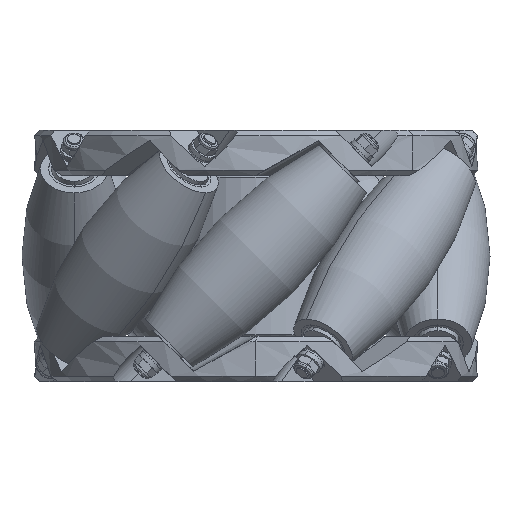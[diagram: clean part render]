
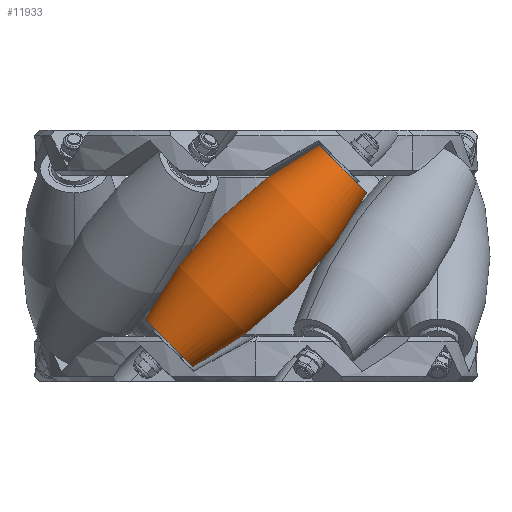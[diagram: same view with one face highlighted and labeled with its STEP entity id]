
A CAD part, left-side view. The second image highlights one B-rep face of the part: STEP entity #11933.
In plain terms, the highlighted toroidal (fillet/blend) face has major radius 137.5 mm and minor radius 157 mm.
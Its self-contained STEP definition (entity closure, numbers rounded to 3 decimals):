
#224 = DIRECTION ( 'NONE',  ( 0.707, 0., 0.707 ) ) ;
#780 = TOROIDAL_SURFACE ( 'NONE', #13351, -137.5, 157. ) ;
#991 = CARTESIAN_POINT ( 'NONE',  ( 41.443, 68.5, -23.61 ) ) ;
#1333 = ORIENTED_EDGE ( 'NONE', *, *, #8897, .F. ) ;
#3078 = DIRECTION ( 'NONE',  ( -0.707, 0., 0.707 ) ) ;
#3083 = DIRECTION ( 'NONE',  ( -0.707, 0., 0.707 ) ) ;
#3659 = EDGE_CURVE ( 'NONE', #7152, #8139, #18464, .T. ) ;
#3838 = AXIS2_PLACEMENT_3D ( 'NONE', #20030, #10143, #224 ) ;
#5120 = CARTESIAN_POINT ( 'NONE',  ( 23.61, 68.5, -41.443 ) ) ;
#5210 = ORIENTED_EDGE ( 'NONE', *, *, #3659, .T. ) ;
#5842 = AXIS2_PLACEMENT_3D ( 'NONE', #8435, #20010, #10123 ) ;
#7152 = VERTEX_POINT ( 'NONE', #5120 ) ;
#7369 = ORIENTED_EDGE ( 'NONE', *, *, #9443, .F. ) ;
#8139 = VERTEX_POINT ( 'NONE', #15444 ) ;
#8435 = CARTESIAN_POINT ( 'NONE',  ( 97.227, 68.5, 97.227 ) ) ;
#8897 = EDGE_CURVE ( 'NONE', #9329, #15506, #16899, .T. ) ;
#9329 = VERTEX_POINT ( 'NONE', #991 ) ;
#9443 = EDGE_CURVE ( 'NONE', #15506, #8139, #13839, .T. ) ;
#9548 = CARTESIAN_POINT ( 'NONE',  ( -97.227, 68.5, -97.227 ) ) ;
#10123 = DIRECTION ( 'NONE',  ( -1., 0., 0. ) ) ;
#10143 = DIRECTION ( 'NONE',  ( -0.707, 0., 0.707 ) ) ;
#10345 = ORIENTED_EDGE ( 'NONE', *, *, #19844, .T. ) ;
#11252 = DIRECTION ( 'NONE',  ( 0., 0., -1. ) ) ;
#11933 = ADVANCED_FACE ( 'NONE', ( #14513 ), #780, .T. ) ;
#13027 = CARTESIAN_POINT ( 'NONE',  ( 32.527, 68.5, -32.527 ) ) ;
#13031 = CARTESIAN_POINT ( 'NONE',  ( 0., 68.5, 0. ) ) ;
#13351 = AXIS2_PLACEMENT_3D ( 'NONE', #13031, #3083, #16322 ) ;
#13357 = CIRCLE ( 'NONE', #20407, 12.61 ) ;
#13820 = EDGE_LOOP ( 'NONE', ( #10345, #5210, #7369, #1333 ) ) ;
#13839 = CIRCLE ( 'NONE', #3838, 12.61 ) ;
#14513 = FACE_OUTER_BOUND ( 'NONE', #13820, .T. ) ;
#14688 = DIRECTION ( 'NONE',  ( 0.707, 0., 0.707 ) ) ;
#15178 = AXIS2_PLACEMENT_3D ( 'NONE', #9548, #21088, #11252 ) ;
#15444 = CARTESIAN_POINT ( 'NONE',  ( -41.443, 68.5, 23.61 ) ) ;
#15506 = VERTEX_POINT ( 'NONE', #17572 ) ;
#16322 = DIRECTION ( 'NONE',  ( 0.707, 0., 0.707 ) ) ;
#16899 = CIRCLE ( 'NONE', #15178, 157. ) ;
#17572 = CARTESIAN_POINT ( 'NONE',  ( -23.61, 68.5, 41.443 ) ) ;
#18464 = CIRCLE ( 'NONE', #5842, 157. ) ;
#19844 = EDGE_CURVE ( 'NONE', #9329, #7152, #13357, .T. ) ;
#20010 = DIRECTION ( 'NONE',  ( 0., 1., 0. ) ) ;
#20030 = CARTESIAN_POINT ( 'NONE',  ( -32.527, 68.5, 32.527 ) ) ;
#20407 = AXIS2_PLACEMENT_3D ( 'NONE', #13027, #3078, #14688 ) ;
#21088 = DIRECTION ( 'NONE',  ( 0., -1., 0. ) ) ;
